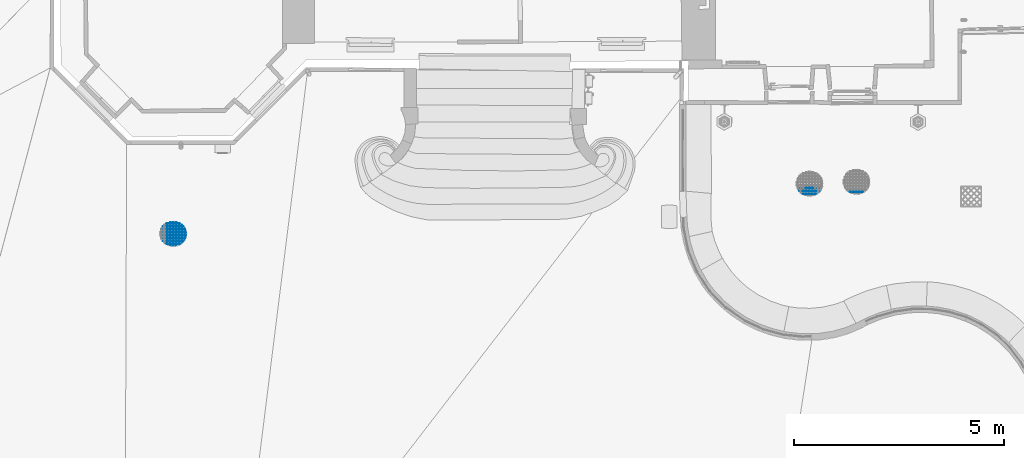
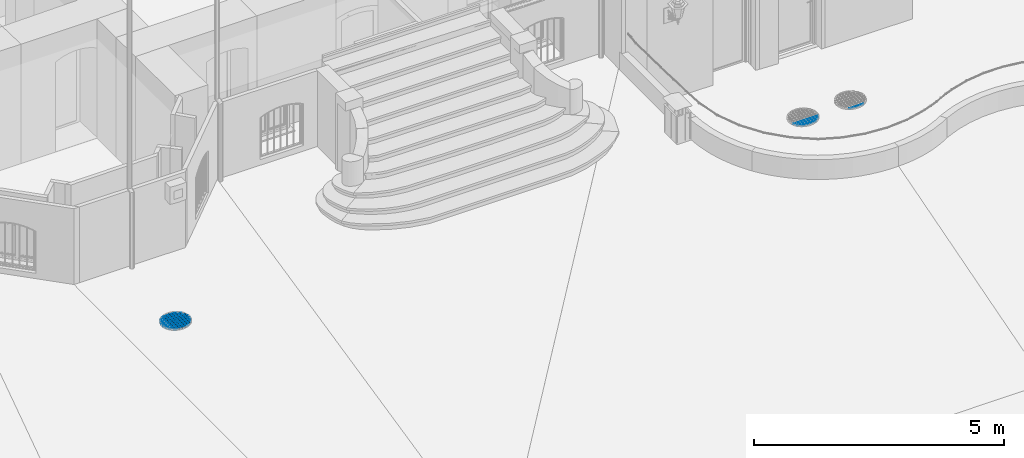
# One storey, part 37 of 133: 19 members, 3 elements without a shape of their own.
"""IFC2X3 building model written with IfcOpenShell, lengths in centimetres."""

from ifc_helpers import new_model, entity, si_unit, converted_unit, direction, frame, origin, origin_with_axes, place, context, subcontext, project, spatial, faceted_brep, material, type_object, element, aggregate, save


model = new_model("IFC2X3")

# Units and contexts
model_context = context("Model", 3, precision=0.0001, world=origin(), true_north=direction((0.225632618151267, 0.974212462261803, 0.0)))
body_context = subcontext(model_context, "Body", "Model", "MODEL_VIEW")
ifc_project = project(units=[si_unit("LENGTHUNIT", "METRE", prefix="CENTI"), si_unit("AREAUNIT", "SQUARE_METRE", prefix="CENTI"), si_unit("VOLUMEUNIT", "CUBIC_METRE", prefix="CENTI"), converted_unit("PLANEANGLEUNIT", "DEGREE", entity("IfcRatioMeasure", 0.0174532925), si_unit("PLANEANGLEUNIT", "RADIAN"), dimensions=[0, 0, 0, 0, 0, 0, 0])], contexts=[model_context])

# Site, building, storey
site_placement = place(None, origin_with_axes())
site = spatial("IfcSite", under=ifc_project, at=site_placement, Name="Default Site", CompositionType="ELEMENT")
building_placement = place(site_placement, origin_with_axes())
building = spatial("IfcBuilding", under=site, at=building_placement, Name="Default Building", CompositionType="ELEMENT")
storey_placement = place(building_placement, frame((0.0, 0.0, -291.400371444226), z_axis=(0.0, 0.0, 1.0), x_axis=(1.0, 0.0, 0.0)))
storey = spatial("IfcBuildingStorey", under=building, at=storey_placement, Name="Rez-de-Jardin", CompositionType="ELEMENT", Elevation=-291.400371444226)

# Assembly, members
building_element_proxy_type = type_object("IfcBuildingElementProxyType", Name="Type Object", PredefinedType="NOTDEFINED")
assembly_1_placement = place(storey_placement, frame((-1009.35653205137, -1334.68058377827, 107.795800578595), z_axis=(0.0, -1.0, -9.43689570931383e-16), x_axis=(1.0, 0.0, 0.0)))
assembly_1 = element("IfcElementAssembly", 1, at=assembly_1_placement, inside=storey, type_object=building_element_proxy_type, Name="Panneau 294967", ObjectType="Precast panel", PredefinedType="USERDEFINED")
ifc_material = material(Name="Acier")
member_1_placement = place(assembly_1_placement, frame((48.8991647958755, 0.499999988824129, 54.1905760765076), z_axis=(0.451180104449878, -9.22707054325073e-22, 0.892432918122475), x_axis=(0.892432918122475, -4.25773959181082e-16, -0.451180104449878)))
member_1 = element("IfcMember", 2, at=member_1_placement, material=ifc_material, Name="4294966867", context=body_context, shape_type="Brep", body=[
    faceted_brep([(-4.9960036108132e-14, -1.4137996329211e-14, -2.22044604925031e-14), (-2.2164208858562, -1.50920942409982e-14, -4.80326979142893e-06), (-2.2164208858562, -0.999999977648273, -4.80326979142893e-06), (-4.9960036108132e-14, -0.999999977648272, -2.22044604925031e-14), (-29.2908582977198, -0.999999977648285, -14.8083427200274), (-27.9767974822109, -0.999999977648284, -13.0234697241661), (-27.9767974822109, -2.6020850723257e-14, -13.0234697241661), (-29.2908582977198, -2.6628005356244e-14, -14.8083427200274), (-2.2164208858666, -0.999999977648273, -2.22044604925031e-14), (-27.9768008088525, -0.999999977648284, -13.023467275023), (-2.2164208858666, -1.50920942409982e-14, -2.2049648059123e-14), (-27.9768008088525, -2.60208521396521e-14, -13.023467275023), (-2.2164208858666, -1.50920942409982e-14, -2.22044604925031e-14), (-4.9960036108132e-14, -1.41483999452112e-14, -2.22044604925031e-14), (-29.2908582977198, -2.66196983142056e-14, -14.8083427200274), (-27.9768008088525, -2.60602052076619e-14, -13.023467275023), (-4.98733644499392e-14, -0.999999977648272, -2.23758967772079e-14)], [[[0, 1, 2, 3]], [[4, 5, 6, 7]], [[3, 8, 9, 4]], [[8, 10, 11, 9]], [[12, 13, 14, 15]], [[0, 16, 4, 7]]]),
])
member_2_placement = place(assembly_1_placement, frame((57.08988904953, 0.499999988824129, 47.1905797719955), z_axis=(0.770488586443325, 9.41418249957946e-22, 0.637453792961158), x_axis=(0.637453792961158, -7.2710204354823e-16, -0.770488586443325)))
member_2 = element("IfcMember", 3, at=member_2_placement, material=ifc_material, Name="4294966866", context=body_context, shape_type="Brep", body=[
    faceted_brep([(1.07390225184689e-14, 2.22044604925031e-14, 8.88178419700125e-14), (-1.29787652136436, 2.12503625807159e-14, 1.6804308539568e-06), (-1.29787652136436, -0.999999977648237, 1.6804308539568e-06), (1.1465437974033e-14, -0.999999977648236, 8.88178410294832e-14), (-31.3645108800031, -0.999999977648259, -37.9101950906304), (-31.6076115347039, -0.999999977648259, -36.6352899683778), (-31.6076115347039, -7.80625944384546e-16, -36.6352899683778), (-31.3645108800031, -6.07153216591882e-16, -37.9101950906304), (1.14654379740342e-14, -0.999999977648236, 8.88178419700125e-14), (-1.29787652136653, -0.999999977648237, 8.88178419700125e-14), (-31.607611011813, -0.999999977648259, -36.6352898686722), (-1.29787652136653, 2.12503625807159e-14, 8.88178419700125e-14), (-31.607611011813, -7.80625564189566e-16, -36.6352898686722), (1.07390225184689e-14, 2.21940512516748e-14, 8.88178419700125e-14), (-31.3645108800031, -6.11113014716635e-16, -37.9101950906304), (-31.607611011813, -7.87872817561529e-16, -36.6352898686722), (1.14658460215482e-14, -0.999999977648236, 8.88175043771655e-14), (-31.3645108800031, -6.07153216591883e-16, -37.9101950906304)], [[[0, 1, 2, 3]], [[4, 5, 6, 7]], [[8, 9, 10, 4]], [[9, 11, 12, 10]], [[11, 13, 14, 15]], [[0, 16, 4, 17]]]),
])
member_3_placement = place(assembly_1_placement, frame((61.0966205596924, 0.499999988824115, 40.190577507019), z_axis=(0.923966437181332, 1.7813730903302e-21, 0.382473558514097), x_axis=(0.382473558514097, -8.7193749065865e-16, -0.923966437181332)))
member_3 = element("IfcMember", 4, at=member_3_placement, material=ifc_material, Name="4294966865", context=body_context, shape_type="Brep", body=[
    faceted_brep([(-1.88737914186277e-13, -1.20563281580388e-14, 1.99840144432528e-13), (-1.08229258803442, -1.30104260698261e-14, 2.21112991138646e-06), (-1.08229258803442, -0.999999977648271, 2.21112991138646e-06), (-1.88737914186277e-13, -0.99999997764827, 1.99840144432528e-13), (-21.8837080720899, -0.999999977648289, -52.8659075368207), (-22.6493527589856, -0.99999997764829, -52.1009613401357), (-22.6493527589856, -3.18321752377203e-14, -52.1009613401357), (-21.8837080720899, -3.11382863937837e-14, -52.8659075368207), (-1.08229258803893, -0.999999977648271, 2.1094237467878e-13), (-22.6493533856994, -0.99999997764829, -52.1009619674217), (-1.08229258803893, -1.30104260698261e-14, 2.11274117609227e-13), (-22.6493533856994, -3.18321757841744e-14, -52.1009619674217), (-1.08229258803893, -1.30104260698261e-14, 2.1094237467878e-13), (-1.88737914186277e-13, -1.20667345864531e-14, 1.99840144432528e-13), (-21.8837080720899, -3.11478659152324e-14, -52.8659075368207), (-22.6493533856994, -3.1815462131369e-14, -52.1009619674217), (-1.87993528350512e-13, -0.99999997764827, 1.99532007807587e-13)], [[[0, 1, 2, 3]], [[4, 5, 6, 7]], [[3, 8, 9, 4]], [[8, 10, 11, 9]], [[12, 13, 14, 15]], [[0, 16, 4, 7]]]),
])
member_4_placement = place(assembly_1_placement, frame((62.8172218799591, 0.499999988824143, 33.1905782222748), z_axis=(0.9918400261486, -1.77089569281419e-21, 0.127488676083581), x_axis=(0.127488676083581, -9.35989088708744e-16, -0.9918400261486)))
member_4 = element("IfcMember", 5, at=member_4_placement, material=ifc_material, Name="4294966864", context=body_context, shape_type="Brep", body=[
    faceted_brep([(-3.88578058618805e-14, -1.12757025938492e-15, 1.55431223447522e-13), (-1.00822614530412, -2.08166817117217e-15, -1.9075683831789e-06), (-1.00822614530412, -0.99999997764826, -1.9075683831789e-06), (-3.88578058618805e-14, -0.999999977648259, 1.55431223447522e-13), (-7.73314044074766, -0.999999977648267, -60.1625058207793), (-8.70859222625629, -0.999999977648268, -59.9075268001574), (-8.70859222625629, -9.28077062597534e-15, -59.9075268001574), (-7.73314044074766, -8.32667268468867e-15, -60.1625058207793), (-1.00822614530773, -0.99999997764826, 1.55431223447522e-13), (-8.70859219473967, -0.999999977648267, -59.9075266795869), (-1.00822614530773, -2.08166817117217e-15, 1.55541802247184e-13), (-8.70859219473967, -9.28077059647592e-15, -59.9075266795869), (-8.70859219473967, -0.999999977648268, -59.9075266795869), (-1.00822614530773, -2.08166817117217e-15, 1.55431223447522e-13), (-3.88578058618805e-14, -1.13797950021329e-15, 1.55431223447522e-13), (-7.73314044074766, -8.37622111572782e-15, -60.1625058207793), (-8.70859219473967, -9.28923286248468e-15, -59.9075266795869), (-3.7937029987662e-14, -0.999999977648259, 1.55312869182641e-13)], [[[0, 1, 2, 3]], [[4, 5, 6, 7]], [[3, 8, 9, 4]], [[8, 10, 11, 12]], [[13, 14, 15, 16]], [[0, 17, 4, 7]]]),
])
member_5_placement = place(assembly_1_placement, frame((62.688684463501, 0.499999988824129, 26.1905789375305), z_axis=(0.9918400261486, 1.77089569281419e-21, -0.127488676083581), x_axis=(-0.127488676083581, -9.35989088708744e-16, -0.9918400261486)))
member_5 = element("IfcMember", 6, at=member_5_placement, material=ifc_material, Name="4294966863", context=body_context, shape_type="Brep", body=[
    faceted_brep([(3.88578058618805e-14, 3.4781205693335e-14, -1.55431223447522e-13), (-1.00822614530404, 3.39138439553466e-14, 1.9075683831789e-06), (-1.00822614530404, -0.999999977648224, 1.9075683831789e-06), (3.88578058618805e-14, -0.999999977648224, -1.55431223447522e-13), (7.70036604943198, -0.999999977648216, -59.9075266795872), (6.72491426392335, -0.999999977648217, -60.1625057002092), (6.72491426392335, 4.11129463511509e-14, -60.1625057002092), (7.70036604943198, 4.20670442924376e-14, -59.9075266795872), (-1.00822614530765, -0.999999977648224, -1.55431223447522e-13), (6.72491429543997, -0.999999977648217, -60.1625058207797), (-1.00822614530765, 3.39138439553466e-14, -1.55541802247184e-13), (6.72491429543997, 4.11129463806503e-14, -60.1625058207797), (-1.00822614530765, 3.39138439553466e-14, -1.55431223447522e-13), (3.88578058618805e-14, 3.48575326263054e-14, -1.55431223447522e-13), (7.70036604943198, 4.2065097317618e-14, -59.9075266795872), (6.72491429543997, 4.11520855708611e-14, -60.1625058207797), (3.97785817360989e-14, -0.999999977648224, -1.55312869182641e-13)], [[[0, 1, 2, 3]], [[4, 5, 6, 7]], [[3, 8, 9, 4]], [[8, 10, 11, 9]], [[12, 13, 14, 15]], [[0, 16, 4, 7]]]),
])
member_6_placement = place(assembly_1_placement, frame((60.6826722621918, 0.499999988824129, 19.1905781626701), z_axis=(0.923966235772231, -2.24053122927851e-21, -0.382474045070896), x_axis=(-0.382474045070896, -8.71937300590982e-16, -0.923966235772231)))
member_6 = element("IfcMember", 7, at=member_6_placement, material=ifc_material, Name="4294966862", context=body_context, shape_type="Brep", body=[
    faceted_brep([(-1.11022302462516e-14, 3.08780778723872e-14, 3.88578058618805e-14), (-1.08229121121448, 3.00107161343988e-14, -2.7810568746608e-06), (-1.08229121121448, -0.999999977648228, -2.7810568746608e-06), (-1.11022302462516e-14, -0.999999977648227, 3.88578058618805e-14), (21.5670882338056, -0.999999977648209, -52.1009506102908), (20.8014449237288, -0.999999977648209, -52.8658962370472), (20.8014449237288, 4.90926745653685e-14, -52.8658962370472), (21.5670882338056, 4.96998275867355e-14, -52.1009506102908), (-1.08229121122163, -0.999999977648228, 4.44089209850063e-14), (20.8014446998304, -0.999999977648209, -52.8658960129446), (-1.08229121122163, 3.00107161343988e-14, 4.40771776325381e-14), (20.8014446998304, 4.90926743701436e-14, -52.8658960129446), (-1.08229121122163, 3.00107161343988e-14, 4.44089209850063e-14), (-1.11022302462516e-14, 3.09544062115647e-14, 3.88578058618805e-14), (21.5670882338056, 4.97594381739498e-14, -52.1009506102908), (20.8014446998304, 4.90918433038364e-14, -52.8658960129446), (-1.03578447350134e-14, -0.999999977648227, 3.91659428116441e-14)], [[[0, 1, 2, 3]], [[4, 5, 6, 7]], [[3, 8, 9, 4]], [[8, 10, 11, 9]], [[12, 13, 14, 15]], [[0, 16, 4, 7]]]),
])
member_7_placement = place(assembly_1_placement, frame((56.2625527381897, 0.499999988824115, 12.1905788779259), z_axis=(0.770489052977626, -4.09272957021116e-22, -0.637453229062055), x_axis=(-0.637453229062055, -7.27102483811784e-16, -0.770489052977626)))
member_7 = element("IfcMember", 8, at=member_7_placement, material=ifc_material, Name="4294966861", context=body_context, shape_type="Brep", body=[
    faceted_brep([(-8.88178419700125e-14, 1.16226472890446e-14, -6.10622663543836e-14), (-1.29787766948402, 1.06685493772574e-14, -7.30552140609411e-07), (-1.29787766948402, -0.999999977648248, -7.30552140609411e-07), (-8.88178419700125e-14, -0.999999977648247, -6.10622663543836e-14), (30.3097076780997, -0.999999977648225, -36.635312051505), (30.0666058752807, -0.999999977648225, -37.9102181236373), (30.0666058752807, 3.34801633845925e-14, -37.9102181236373), (30.3097076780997, 3.36536354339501e-14, -36.635312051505), (-1.29787766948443, -0.999999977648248, -6.10622663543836e-14), (30.0666054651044, -0.999999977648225, -37.910218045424), (-1.29787766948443, 1.06685493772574e-14, -6.1394007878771e-14), (30.0666054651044, 3.34801630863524e-14, -37.910218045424), (-1.29787766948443, 1.06685493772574e-14, -6.10622663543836e-14), (-8.88178419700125e-14, 1.16122394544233e-14, -6.10622663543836e-14), (30.3097076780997, 3.36504881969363e-14, -36.635312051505), (30.0666054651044, 3.34737274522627e-14, -37.910218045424), (-8.83861949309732e-14, -0.999999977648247, -6.07051492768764e-14)], [[[0, 1, 2, 3]], [[4, 5, 6, 7]], [[3, 8, 9, 4]], [[8, 10, 11, 9]], [[12, 13, 14, 15]], [[0, 16, 4, 7]]]),
])
member_8_placement = place(assembly_1_placement, frame((46.9211578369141, 0.499999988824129, 5.19057884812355), z_axis=(0.451178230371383, 2.8596710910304e-23, -0.892433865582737), x_axis=(-0.892433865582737, -4.25772190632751e-16, -0.451178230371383)))
member_8 = element("IfcMember", 9, at=member_8_placement, material=ifc_material, Name="4294966860", context=body_context, shape_type="Brep", body=[
    faceted_brep([(-1.0547118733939e-13, -1.87350135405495e-14, -1.4432899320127e-13), (-2.21641853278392, -1.96891114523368e-14, 1.48864156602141e-07), (-2.21641853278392, -0.999999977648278, 1.48864156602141e-07), (-1.0547118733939e-13, -0.999999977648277, -1.4432899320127e-13), (25.7604072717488, -0.999999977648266, -13.0234131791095), (27.0744704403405, -0.999999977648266, -14.8082815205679), (27.0744704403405, -7.19910260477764e-15, -14.8082815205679), (25.7604072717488, -7.80625564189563e-15, -13.0234131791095), (-2.21641853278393, -0.999999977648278, -1.4432899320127e-13), (27.0744708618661, -0.999999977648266, -14.8082812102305), (-2.21641853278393, -1.96891114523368e-14, -1.44483805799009e-13), (27.0744708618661, -7.19910242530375e-15, -14.8082812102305), (-2.21641853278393, -1.96891114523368e-14, -1.4432899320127e-13), (-1.0547118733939e-13, -1.87454220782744e-14, -1.4432899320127e-13), (25.7604072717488, -7.77735667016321e-15, -13.0234131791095), (27.0744708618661, -7.21786488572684e-15, -14.8082812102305), (-1.05384516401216e-13, -0.999999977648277, -1.44157557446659e-13)], [[[0, 1, 2, 3]], [[4, 5, 6, 7]], [[3, 8, 9, 4]], [[8, 10, 11, 9]], [[12, 13, 14, 15]], [[0, 16, 4, 7]]]),
])
member_9_placement = place(assembly_1_placement, frame((18.9884871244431, 1.49999996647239, 55.5767774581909), z_axis=(-0.399390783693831, 6.76952387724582e-22, 0.91678078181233), x_axis=(0.91678078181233, 3.7690091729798e-16, 0.399390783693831)))
member_9 = element("IfcMember", 10, at=member_9_placement, material=ifc_material, Name="4294966857", context=body_context, shape_type="Brep", body=[
    faceted_brep([(0.0, 7.11236625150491e-15, -2.4980018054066e-13), (-1.09077226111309, 7.45931094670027e-15, -1.95913818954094e-06), (-1.09077226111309, -2.99999993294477, -1.95913818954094e-06), (0.0, -2.99999993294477, -2.4980018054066e-13), (-20.2780278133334, -2.99999993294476, -46.5471587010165), (-21.0208146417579, -2.99999993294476, -45.7483757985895), (-21.0208146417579, 1.50920943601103e-14, -45.7483757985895), (-20.2780278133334, 1.47451495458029e-14, -46.5471587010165), (-1.09077226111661, -2.99999993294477, -2.38697950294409e-13), (-21.0208143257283, -2.99999993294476, -45.7483755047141), (-1.09077226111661, 7.45931094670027e-15, -2.39113649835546e-13), (-21.0208143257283, 1.50920942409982e-14, -45.7483755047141), (-1.09077226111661, 7.45931094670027e-15, -2.38697950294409e-13), (-2.41851177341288e-32, 7.04819788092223e-15, -2.4980018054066e-13), (-20.2780278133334, 1.46910366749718e-14, -46.5471587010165), (-21.0208143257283, 1.49709930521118e-14, -45.7483755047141), (-9.50340201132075e-16, -2.99999993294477, -2.49386169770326e-13)], [[[0, 1, 2, 3]], [[4, 5, 6, 7]], [[3, 8, 9, 4]], [[8, 10, 11, 9]], [[12, 13, 14, 15]], [[0, 16, 4, 7]]]),
])
member_10_placement = place(assembly_1_placement, frame((25.9884864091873, 1.49999996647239, 57.7345788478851), z_axis=(-0.213462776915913, 2.57128649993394e-23, 0.97695119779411), x_axis=(0.97695119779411, 2.01442596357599e-16, 0.213462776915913)))
member_10 = element("IfcMember", 11, at=member_10_placement, material=ifc_material, Name="4294966856", context=body_context, shape_type="Brep", body=[
    faceted_brep([(-3.33066907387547e-14, -7.97972798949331e-15, -4.44089209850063e-14), (-1.02359160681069, -7.80625564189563e-15, -1.30654996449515e-07), (-1.02359160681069, -2.99999993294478, -1.30654996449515e-07), (-3.33066907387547e-14, -2.99999993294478, -4.44089209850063e-14), (-11.7592369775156, -2.99999993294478, -53.8182853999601), (-12.6895459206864, -2.99999993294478, -53.391360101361), (-12.6895459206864, -5.37764275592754e-15, -53.391360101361), (-11.7592369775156, -5.55111512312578e-15, -53.8182853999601), (-1.0235916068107, -2.99999993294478, -5.55111512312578e-14), (-12.6895458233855, -2.99999993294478, -53.3913598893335), (-1.0235916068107, -7.80625564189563e-15, -5.56222408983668e-14), (-12.6895458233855, -5.3776427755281e-15, -53.3913598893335), (-1.0235916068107, -7.80625564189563e-15, -5.55111512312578e-14), (-3.33066907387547e-14, -8.01245059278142e-15, -4.44089209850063e-14), (-11.7592369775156, -5.6436379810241e-15, -53.8182853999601), (-12.6895458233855, -5.4562341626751e-15, -53.3913598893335), (-3.38834814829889e-14, -2.99999993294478, -4.42828928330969e-14)], [[[0, 1, 2, 3]], [[4, 5, 6, 7]], [[3, 8, 9, 4]], [[8, 10, 11, 9]], [[12, 13, 14, 15]], [[0, 16, 4, 7]]]),
])
member_11_placement = place(assembly_1_placement, frame((32.9884886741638, 1.4999999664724, 58.3811581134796), z_axis=(0.0, 0.0, 1.0), x_axis=(1.0, 0.0, 0.0)))
member_11 = element("IfcMember", 12, at=member_11_placement, material=ifc_material, Name="4294966855", context=body_context, shape_type="Brep", body=[
    faceted_brep([(0.0, 0.0, 0.0), (-1.00000202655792, 0.0, -1.11022527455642e-14), (-1.00000202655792, -2.99999993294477, -1.11022527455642e-14), (0.0, -2.99999993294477, 0.0), (0.0, -2.99999993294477, -56.3811581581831), (-1.00000202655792, -2.99999993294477, -56.3811581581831), (-1.00000202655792, 0.0, -56.3811581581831), (0.0, 0.0, -56.3811581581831), (-1.00000202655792, -2.99999993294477, 0.0), (-1.00000202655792, 0.0, 0.0), (-1.00000202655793, 0.0, -56.3811581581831), (-1.00000202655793, -2.99999993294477, -56.3811581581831), (-5.5511151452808e-15, -2.99999993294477, -56.3811581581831), (-5.5511151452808e-15, 0.0, -56.3811581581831)], [[[0, 1, 2, 3]], [[4, 5, 6, 7]], [[3, 8, 5, 4]], [[8, 9, 10, 11]], [[9, 0, 7, 6]], [[0, 3, 12, 13]]]),
])
member_12_placement = place(assembly_1_placement, frame((39.9884879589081, 1.49999996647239, 57.5160801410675), z_axis=(0.213462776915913, 2.57128649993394e-23, 0.97695119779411), x_axis=(0.97695119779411, -2.01442596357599e-16, -0.213462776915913)))
member_12 = element("IfcMember", 13, at=member_12_placement, material=ifc_material, Name="4294966854", context=body_context, shape_type="Brep", body=[
    faceted_brep([(1.60982338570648e-13, -1.71737624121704e-14, -7.7715611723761e-14), (-1.02359160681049, -1.73472347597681e-14, 1.30654874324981e-07), (-1.02359160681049, -2.99999993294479, 1.30654874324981e-07), (1.60982338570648e-13, -2.99999993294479, -7.7715611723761e-14), (11.6659542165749, -2.99999993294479, -53.3913598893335), (10.7356452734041, -2.99999993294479, -53.8182851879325), (10.7356452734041, -1.49186219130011e-14, -53.8182851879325), (11.6659542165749, -1.47451495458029e-14, -53.3913598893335), (-1.0235916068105, -2.99999993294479, -7.7715611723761e-14), (10.735645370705, -2.99999993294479, -53.8182853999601), (-1.0235916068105, -1.73472347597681e-14, -7.78267013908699e-14), (10.735645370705, -1.49186218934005e-14, -53.8182853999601), (-1.0235916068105, -1.73472347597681e-14, -7.7715611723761e-14), (1.60982338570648e-13, -1.71410398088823e-14, -7.7715611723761e-14), (11.6659542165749, -1.47910183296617e-14, -53.3913598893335), (10.735645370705, -1.49784221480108e-14, -53.8182853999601), (1.61559129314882e-13, -2.99999993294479, -7.75895835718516e-14)], [[[0, 1, 2, 3]], [[4, 5, 6, 7]], [[3, 8, 9, 4]], [[8, 10, 11, 9]], [[12, 13, 14, 15]], [[0, 16, 4, 7]]]),
])
member_13_placement = place(assembly_1_placement, frame((46.9884872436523, 1.49999996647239, 55.1411330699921), z_axis=(0.399390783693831, 6.76952387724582e-22, 0.91678078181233), x_axis=(0.91678078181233, -3.7690091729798e-16, -0.399390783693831)))
member_13 = element("IfcMember", 14, at=member_13_placement, material=ifc_material, Name="4294966853", context=body_context, shape_type="Brep", body=[
    faceted_brep([(1.30451205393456e-13, 7.80625564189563e-15, -2.22044604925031e-13), (-1.09077226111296, 7.28583859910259e-15, 1.95913771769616e-06), (-1.09077226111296, -2.99999993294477, 1.95913771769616e-06), (1.30451205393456e-13, -2.99999993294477, -2.22044604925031e-13), (19.9300420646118, -2.99999993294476, -45.7483755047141), (19.1872552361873, -2.99999993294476, -46.5471584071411), (19.1872552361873, 1.49186217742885e-14, -46.5471584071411), (19.9300420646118, 1.52655665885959e-14, -45.7483755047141), (-1.09077226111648, -2.99999993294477, -2.33146835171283e-13), (19.1872555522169, -2.99999993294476, -46.5471587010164), (-1.09077226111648, 7.28583859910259e-15, -2.3356253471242e-13), (19.1872555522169, 1.49186218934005e-14, -46.5471587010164), (-1.09077226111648, 7.28583859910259e-15, -2.33146835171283e-13), (1.30451205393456e-13, 7.69695166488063e-15, -2.22044604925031e-13), (19.9300420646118, 1.52086337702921e-14, -45.7483755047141), (19.1872555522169, 1.49286773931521e-14, -46.5471587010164), (1.31401545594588e-13, -2.99999993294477, -2.21630594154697e-13)], [[[0, 1, 2, 3]], [[4, 5, 6, 7]], [[3, 8, 9, 4]], [[8, 10, 11, 9]], [[12, 13, 14, 15]], [[0, 16, 4, 7]]]),
])
member_14_placement = place(assembly_1_placement, frame((53.9884865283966, 1.49999996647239, 50.517076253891), z_axis=(0.654373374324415, 1.25231527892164e-22, 0.756171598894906), x_axis=(0.756171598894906, -6.17525328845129e-16, -0.654373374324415)))
member_14 = element("IfcMember", 15, at=member_14_placement, material=ifc_material, Name="4294966852", context=body_context, shape_type="Brep", body=[
    faceted_brep([(-1.84574577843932e-13, -1.76941794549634e-14, 1.55431223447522e-13), (-1.32244988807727, -1.85615411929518e-14, 2.68187405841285e-07), (-1.32244988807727, -2.99999993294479, 2.68187405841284e-07), (-1.8179902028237e-13, -2.99999993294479, 1.55431222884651e-13), (26.6022369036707, -2.99999993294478, -30.7406395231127), (26.4123451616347, -2.99999993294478, -32.0493860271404), (26.4123451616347, -1.38777930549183e-15, -32.0493860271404), (26.6022369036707, -1.38777878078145e-15, -30.7406395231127), (-1.81799020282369e-13, -2.99999993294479, 1.55431223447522e-13), (-1.32244988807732, -2.99999993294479, 1.55431223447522e-13), (26.4123460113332, -2.99999993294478, -32.0493861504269), (-1.32244988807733, -1.85615411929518e-14, 1.55998801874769e-13), (26.4123460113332, -1.38777878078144e-15, -32.0493861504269), (-1.32244988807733, -1.85615411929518e-14, 1.55431223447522e-13), (-1.84574577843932e-13, -1.77448948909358e-14, 1.55431223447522e-13), (26.6022369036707, -1.31733594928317e-15, -30.7406395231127), (26.4123460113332, -1.43459822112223e-15, -32.0493861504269), (-1.82326777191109e-13, -2.99999993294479, 1.54974514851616e-13), (26.6022369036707, -1.38777878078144e-15, -30.7406395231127)], [[[0, 1, 2, 3]], [[4, 5, 6, 7]], [[8, 9, 10, 4]], [[9, 11, 12, 10]], [[13, 14, 15, 16]], [[0, 17, 4, 18]]]),
])
member_15_placement = place(assembly_1_placement, frame((60.9884858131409, 1.49999996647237, 40.5187129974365), z_axis=(0.909354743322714, -1.89251206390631e-22, 0.416021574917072), x_axis=(0.416021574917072, -8.5814858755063e-16, -0.909354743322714)))
member_15 = element("IfcMember", 16, at=member_15_placement, material=ifc_material, Name="4294966851", context=body_context, shape_type="Brep", body=[
    faceted_brep([(4.30211422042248e-14, 1.196959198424e-14, 1.77635683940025e-13), (-2.4037191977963, 9.8879238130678e-15, -5.30102376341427e-07), (-2.4037191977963, -2.99999993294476, -5.30102376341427e-07), (4.57966997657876e-14, -2.99999993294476, 1.77635684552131e-13), (18.7838755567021, -2.99999993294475, -8.59345326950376), (20.3555528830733, -2.99999993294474, -10.4121623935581), (20.3555528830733, 2.94902983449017e-14, -10.4121623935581), (18.7838755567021, 2.81025203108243e-14, -8.59345326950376), (4.57966997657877e-14, -2.99999993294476, 1.77635683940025e-13), (-2.40371919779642, -2.99999993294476, 1.77635683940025e-13), (20.3555537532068, -2.99999993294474, -10.4121616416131), (-2.40371919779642, 9.8879238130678e-15, 1.76689196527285e-13), (20.3555537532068, 2.94902990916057e-14, -10.4121616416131), (-2.40371919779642, 9.8879238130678e-15, 1.77635683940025e-13), (4.30211422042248e-14, 1.19506720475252e-14, 1.77635683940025e-13), (18.7838755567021, 2.80700266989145e-14, -8.59345326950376), (20.3555537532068, 2.94187597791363e-14, -10.4121616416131), (4.57618927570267e-14, -2.99999993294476, 1.77559601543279e-13)], [[[0, 1, 2, 3]], [[4, 5, 6, 7]], [[8, 9, 10, 4]], [[9, 11, 12, 10]], [[13, 14, 15, 16]], [[0, 17, 4, 7]]]),
])
aggregate(assembly_1, [member_1, member_2, member_3, member_4, member_5, member_6, member_7, member_8, member_9, member_10, member_11, member_12, member_13, member_14, member_15])

# Assembly, member
assembly_2_placement = place(storey_placement, frame((619.588486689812, -1210.73629178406, 0.999999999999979), z_axis=(0.0, -1.0, -9.43689570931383e-16), x_axis=(1.0, 0.0, 0.0)))
assembly_2 = element("IfcElementAssembly", 17, at=assembly_2_placement, inside=storey, type_object=building_element_proxy_type, Name="Panneau 294721", ObjectType="Precast panel", PredefinedType="USERDEFINED")
member_16_placement = place(assembly_2_placement, frame((48.8991647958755, 0.499999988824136, 54.1905760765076), z_axis=(0.451180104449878, -9.22707054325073e-22, 0.892432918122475), x_axis=(0.892432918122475, -4.25773959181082e-16, -0.451180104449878)))
member_16 = element("IfcMember", 18, at=member_16_placement, material=ifc_material, Name="4294966737", context=body_context, shape_type="Brep", body=[
    faceted_brep([(4.44089209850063e-14, -3.63424568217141e-14, -1.11022302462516e-13), (-2.2164208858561, -3.72965547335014e-14, -4.80326988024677e-06), (-2.2164208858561, -0.999999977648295, -4.80326988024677e-06), (4.44089209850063e-14, -0.999999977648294, -1.11022302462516e-13), (-29.2908582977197, -0.999999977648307, -14.8083427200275), (-27.9767974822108, -0.999999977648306, -13.0234697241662), (-27.9767974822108, -4.82253112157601e-14, -13.0234697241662), (-29.2908582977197, -4.88324658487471e-14, -14.8083427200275), (-2.21642088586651, -0.999999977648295, -1.11022302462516e-13), (-27.9768008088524, -0.999999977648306, -13.0234672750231), (-2.21642088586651, -3.72965547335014e-14, -1.10867490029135e-13), (-27.9768008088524, -4.82253126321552e-14, -13.0234672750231), (-2.21642088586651, -3.72965547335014e-14, -1.11022302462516e-13), (4.44089209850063e-14, -3.63528604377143e-14, -1.11022302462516e-13), (-29.2908582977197, -4.88241588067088e-14, -14.8083427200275), (-27.9768008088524, -4.82646657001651e-14, -13.0234672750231), (4.44955926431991e-14, -0.999999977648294, -1.1119373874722e-13)], [[[0, 1, 2, 3]], [[4, 5, 6, 7]], [[3, 8, 9, 4]], [[8, 10, 11, 9]], [[12, 13, 14, 15]], [[0, 16, 4, 7]]]),
])
aggregate(assembly_2, [member_16])

# Assembly, members
assembly_3_placement = place(storey_placement, frame((507.608740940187, -1215.27016189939, 0.999999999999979), z_axis=(0.0, -1.0, -9.43689570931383e-16), x_axis=(1.0, 0.0, 0.0)))
assembly_3 = element("IfcElementAssembly", 19, at=assembly_3_placement, inside=storey, type_object=building_element_proxy_type, Name="Panneau 294722", ObjectType="Precast panel", PredefinedType="USERDEFINED")
member_17_placement = place(assembly_3_placement, frame((48.8991647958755, 0.499999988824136, 54.1905760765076), z_axis=(0.451180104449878, -9.22707054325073e-22, 0.892432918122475), x_axis=(0.892432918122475, -4.25773959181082e-16, -0.451180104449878)))
member_17 = element("IfcMember", 20, at=member_17_placement, material=ifc_material, Name="4294966719", context=body_context, shape_type="Brep", body=[
    faceted_brep([(-1.60982338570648e-13, -3.63424568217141e-14, -1.11022302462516e-13), (-2.21642088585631, -3.72965547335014e-14, -4.80326988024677e-06), (-2.21642088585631, -0.999999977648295, -4.80326988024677e-06), (-1.60982338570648e-13, -0.999999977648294, -1.11022302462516e-13), (-29.2908582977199, -0.999999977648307, -14.8083427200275), (-27.976797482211, -0.999999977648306, -13.0234697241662), (-27.976797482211, -4.82253112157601e-14, -13.0234697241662), (-29.2908582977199, -4.88324658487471e-14, -14.8083427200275), (-2.21642088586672, -0.999999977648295, -1.11022302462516e-13), (-27.9768008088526, -0.999999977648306, -13.0234672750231), (-2.21642088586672, -3.72965547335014e-14, -1.10867490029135e-13), (-27.9768008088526, -4.82253126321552e-14, -13.0234672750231), (-2.21642088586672, -3.72965547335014e-14, -1.11022302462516e-13), (-1.60982338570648e-13, -3.63528604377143e-14, -1.11022302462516e-13), (-29.2908582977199, -4.88241588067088e-14, -14.8083427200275), (-27.9768008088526, -4.82646657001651e-14, -13.0234672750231), (-1.60895666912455e-13, -0.999999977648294, -1.1119373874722e-13)], [[[0, 1, 2, 3]], [[4, 5, 6, 7]], [[3, 8, 9, 4]], [[8, 10, 11, 9]], [[12, 13, 14, 15]], [[0, 16, 4, 7]]]),
])
member_18_placement = place(assembly_3_placement, frame((57.0898890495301, 0.499999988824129, 47.1905797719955), z_axis=(0.770488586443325, 9.41418249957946e-22, 0.637453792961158), x_axis=(0.637453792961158, -7.2710204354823e-16, -0.770488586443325)))
member_18 = element("IfcMember", 21, at=member_18_placement, material=ifc_material, Name="4294966718", context=body_context, shape_type="Brep", body=[
    faceted_brep([(-1.66896661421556e-13, 0.0, -1.99840144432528e-13), (-1.29787652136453, -9.54097911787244e-16, 1.68043056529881e-06), (-1.29787652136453, -0.999999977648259, 1.68043056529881e-06), (-1.66170245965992e-13, -0.999999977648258, -1.99840145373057e-13), (-31.3645108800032, -0.999999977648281, -37.9101950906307), (-31.6076115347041, -0.999999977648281, -36.635289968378), (-31.6076115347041, -2.29850864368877e-14, -36.635289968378), (-31.3645108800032, -2.2811613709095e-14, -37.9101950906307), (-1.66170245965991e-13, -0.999999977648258, -1.99840144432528e-13), (-1.29787652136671, -0.999999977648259, -1.99840144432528e-13), (-31.6076110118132, -0.999999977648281, -36.6352898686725), (-1.29787652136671, -9.54097911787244e-16, -1.99840144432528e-13), (-31.6076110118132, -2.29850860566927e-14, -36.6352898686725), (-1.66896661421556e-13, -1.04092408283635e-17, -1.99840144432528e-13), (-31.3645108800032, -2.28155735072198e-14, -37.9101950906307), (-31.6076110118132, -2.29923333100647e-14, -36.6352898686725), (-1.66169837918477e-13, -0.999999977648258, -1.99840482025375e-13), (-31.3645108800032, -0.999999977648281, -37.9101950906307), (-31.3645108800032, -2.2811613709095e-14, -37.9101950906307)], [[[0, 1, 2, 3]], [[4, 5, 6, 7]], [[8, 9, 10, 4]], [[9, 11, 12, 10]], [[11, 13, 14, 15]], [[0, 16, 17, 18]]]),
])
member_19_placement = place(assembly_3_placement, frame((61.0966205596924, 0.499999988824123, 40.190577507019), z_axis=(0.923966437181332, 1.7813730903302e-21, 0.382473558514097), x_axis=(0.382473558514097, -8.7193749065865e-16, -0.923966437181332)))
member_19 = element("IfcMember", 22, at=member_19_placement, material=ifc_material, Name="4294966717", context=body_context, shape_type="Brep", body=[
    faceted_brep([(-1.88737914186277e-13, -1.20563281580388e-14, -1.55431223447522e-13), (-1.08229258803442, -1.30104260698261e-14, 2.21112955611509e-06), (-1.08229258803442, -0.999999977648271, 2.21112955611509e-06), (-1.88737914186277e-13, -0.99999997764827, -1.55431223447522e-13), (-21.8837080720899, -0.999999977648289, -52.865907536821), (-22.6493527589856, -0.99999997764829, -52.1009613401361), (-22.6493527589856, -3.18321752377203e-14, -52.1009613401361), (-21.8837080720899, -3.11382863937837e-14, -52.865907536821), (-1.08229258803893, -0.999999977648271, -1.4432899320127e-13), (-22.6493533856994, -0.99999997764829, -52.1009619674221), (-1.08229258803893, -1.30104260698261e-14, -1.43997250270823e-13), (-22.6493533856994, -3.18321757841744e-14, -52.1009619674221), (-1.08229258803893, -1.30104260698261e-14, -1.4432899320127e-13), (-1.88737914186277e-13, -1.20667345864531e-14, -1.55431223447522e-13), (-21.8837080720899, -3.11478659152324e-14, -52.865907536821), (-22.6493533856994, -3.1815462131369e-14, -52.1009619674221), (-1.87993528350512e-13, -0.99999997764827, -1.55739360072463e-13)], [[[0, 1, 2, 3]], [[4, 5, 6, 7]], [[3, 8, 9, 4]], [[8, 10, 11, 9]], [[12, 13, 14, 15]], [[0, 16, 4, 7]]]),
])
aggregate(assembly_3, [member_17, member_18, member_19])

save(model, "model.ifc")
